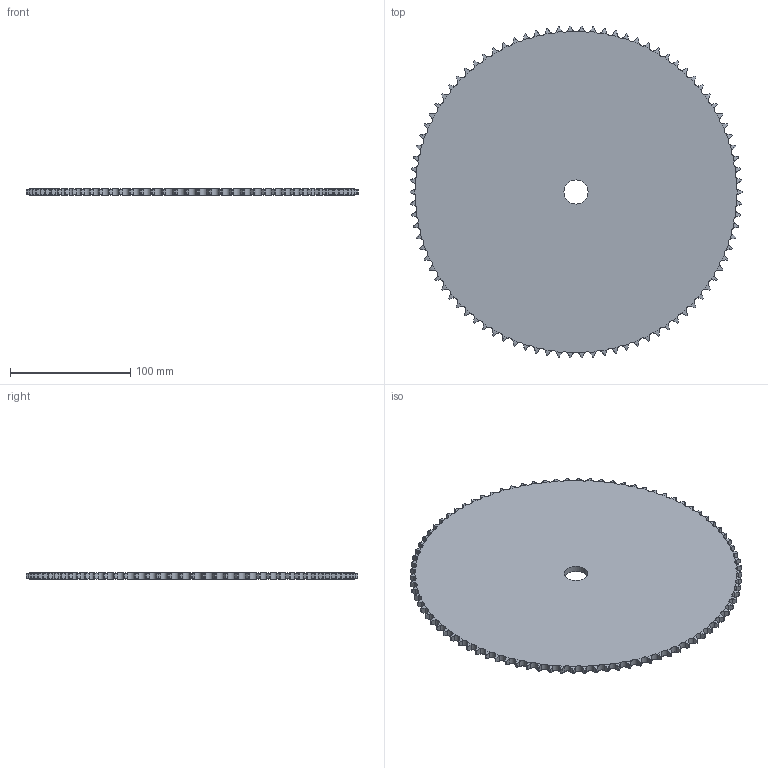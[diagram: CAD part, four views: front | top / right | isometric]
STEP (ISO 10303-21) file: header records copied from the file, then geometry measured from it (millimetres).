
FILE_DESCRIPTION((''),'2;1');
FILE_NAME('500-101-0090_PRT','2021-02-12T',('Brieden'),('Brieden'),'PRO/ENGINEER BY PARAMETRIC TECHNOLOGY CORPORATION, 2010160','PRO/ENGINEER BY PARAMETRIC TECHNOLOGY CORPORATION, 2010160','');
FILE_SCHEMA(('AUTOMOTIVE_DESIGN { 1 0 10303 214 1 1 1 1 }'));
Length unit declared in the file: millimetre
Products named in the file (1): 500-101-0090_PRT
Bounding box: 276.27 x 276.13 x 5.3 mm (x, y, z)
Volume: 301552.5 mm3; surface area: 120704.8 mm2
Topology: 1 solids, 1 shells, 544 faces, 1626 edges, 1084 vertices
Faces by surface type: cylinder 362, torus 180, plane 2
Entity records: 26652 total; most frequent: CARTESIAN_POINT 7943, ORIENTED_EDGE 3252, DIRECTION 2538, PRESENTATION_STYLE_ASSIGNMENT 1627, STYLED_ITEM 1627, CURVE_STYLE 1626, EDGE_CURVE 1626, AXIS2_PLACEMENT_3D 1088
